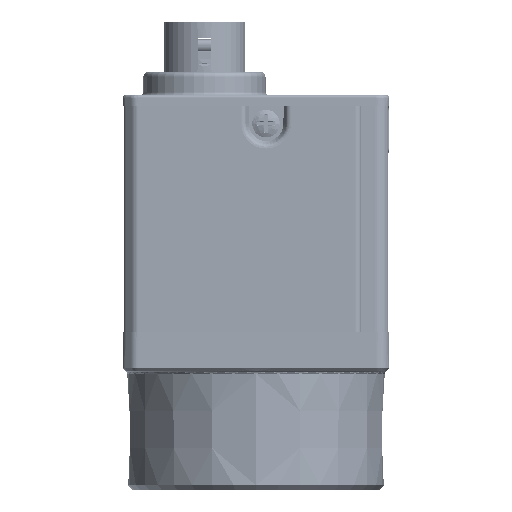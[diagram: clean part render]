
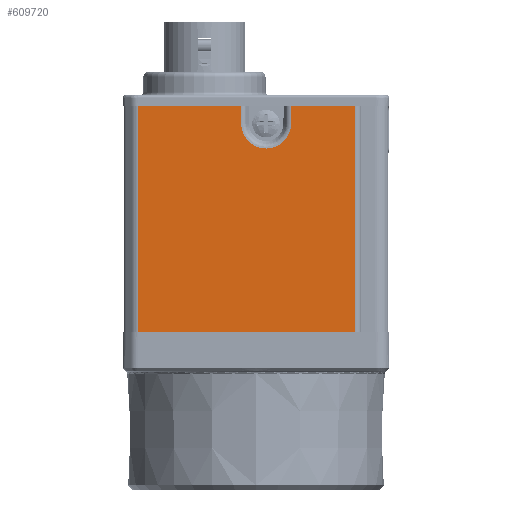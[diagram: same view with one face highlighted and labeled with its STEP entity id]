
A CAD part, left-side view. The second image highlights one B-rep face of the part: STEP entity #609720.
In plain terms, the highlighted planar face has unit normal (-1, 0, 0) as drawn and (0, 1, 0) by its records, which use the part's own axes.
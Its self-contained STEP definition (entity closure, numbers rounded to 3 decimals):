
#605504=DIRECTION('',(0.,0.,1.));
#605505=VECTOR('',#605504,1.9);
#605506=CARTESIAN_POINT('',(18.208,14.5,0.));
#605507=LINE('',#605506,#605505);
#605511=DIRECTION('',(0.,0.,-1.));
#605512=VECTOR('',#605511,24.6);
#605513=CARTESIAN_POINT('',(1.614,14.5,24.6));
#605514=LINE('',#605513,#605512);
#605518=DIRECTION('',(0.,0.,-1.));
#605519=VECTOR('',#605518,1.9);
#605520=CARTESIAN_POINT('',(12.792,14.5,1.9));
#605521=LINE('',#605520,#605519);
#605525=CARTESIAN_POINT('',(15.5,14.5,1.9));
#605526=DIRECTION('',(0.,1.,0.));
#605527=DIRECTION('',(-1.,0.,0.));
#605528=AXIS2_PLACEMENT_3D('',#605525,#605526,#605527);
#605586=DIRECTION('',(-1.,0.,0.));
#605587=VECTOR('',#605586,6.992);
#605588=CARTESIAN_POINT('',(25.2,14.5,0.));
#605589=LINE('',#605588,#605587);
#605593=DIRECTION('',(-1.,0.,0.));
#605594=VECTOR('',#605593,11.177);
#605595=CARTESIAN_POINT('',(12.792,14.5,0.));
#605596=LINE('',#605595,#605594);
#606006=DIRECTION('',(-1.,0.,0.));
#606007=VECTOR('',#606006,23.586);
#606008=CARTESIAN_POINT('',(25.2,14.5,24.6));
#606009=LINE('',#606008,#606007);
#606049=DIRECTION('',(0.,0.,1.));
#606050=VECTOR('',#606049,24.6);
#606051=CARTESIAN_POINT('',(25.2,14.5,0.));
#606052=LINE('',#606051,#606050);
#606703=CARTESIAN_POINT('',(1.614,14.5,24.6));
#606704=CARTESIAN_POINT('',(1.614,14.5,0.));
#606705=VERTEX_POINT('',#606703);
#606706=VERTEX_POINT('',#606704);
#606747=CARTESIAN_POINT('',(25.2,14.5,24.6));
#606748=VERTEX_POINT('',#606747);
#606749=CARTESIAN_POINT('',(25.2,14.5,0.));
#606750=VERTEX_POINT('',#606749);
#606931=CARTESIAN_POINT('',(18.208,14.5,0.));
#606932=CARTESIAN_POINT('',(18.208,14.5,1.9));
#606933=VERTEX_POINT('',#606931);
#606934=VERTEX_POINT('',#606932);
#606935=CARTESIAN_POINT('',(12.792,14.5,1.9));
#606936=VERTEX_POINT('',#606935);
#606937=CARTESIAN_POINT('',(12.792,14.5,0.));
#606938=VERTEX_POINT('',#606937);
#609698=CARTESIAN_POINT('',(25.8,14.5,0.));
#609699=DIRECTION('',(0.,1.,0.));
#609700=DIRECTION('',(-1.,0.,0.));
#609701=AXIS2_PLACEMENT_3D('',#609698,#609699,#609700);
#609702=PLANE('',#609701);
#609704=ORIENTED_EDGE('',*,*,#609703,.F.);
#609706=ORIENTED_EDGE('',*,*,#609705,.F.);
#609708=ORIENTED_EDGE('',*,*,#609707,.T.);
#609710=ORIENTED_EDGE('',*,*,#609709,.T.);
#609711=ORIENTED_EDGE('',*,*,#609682,.T.);
#609713=ORIENTED_EDGE('',*,*,#609712,.F.);
#609715=ORIENTED_EDGE('',*,*,#609714,.F.);
#609717=ORIENTED_EDGE('',*,*,#609716,.T.);
#609718=EDGE_LOOP('',(#609704,#609706,#609708,#609710,#609711,#609713,#609715,
#609717));
#609719=FACE_OUTER_BOUND('',#609718,.F.);
#609720=ADVANCED_FACE('',(#609719),#609702,.T.);
#605529=CIRCLE('',#605528,2.708);
#609682=EDGE_CURVE('',#606705,#606706,#605514,.T.);
#609703=EDGE_CURVE('',#606933,#606934,#605507,.T.);
#609705=EDGE_CURVE('',#606750,#606933,#605589,.T.);
#609707=EDGE_CURVE('',#606750,#606748,#606052,.T.);
#609709=EDGE_CURVE('',#606748,#606705,#606009,.T.);
#609712=EDGE_CURVE('',#606938,#606706,#605596,.T.);
#609714=EDGE_CURVE('',#606936,#606938,#605521,.T.);
#609716=EDGE_CURVE('',#606936,#606934,#605529,.T.);
